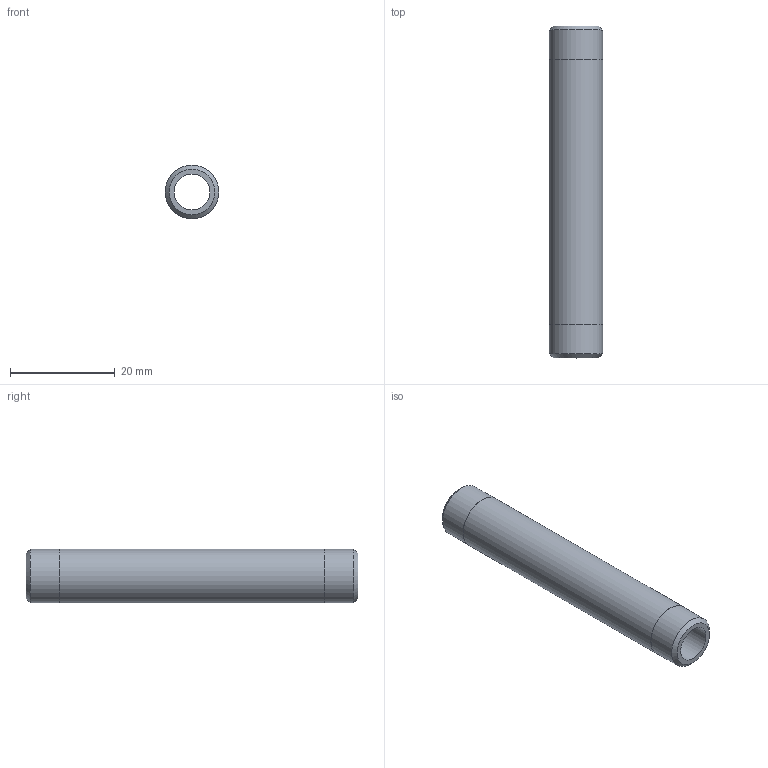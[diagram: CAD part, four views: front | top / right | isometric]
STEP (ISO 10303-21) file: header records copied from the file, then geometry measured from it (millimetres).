
FILE_DESCRIPTION(/* description */ (''),/* implementation_level */ '2;1');
FILE_NAME(/* name */ 'C:/Users/drich/Desktop/SSPN18-2-1_2 v1.step',/* time_stamp */ '2020-01-04T13:31:23-06:00',/* author */ (''),/* organization */ (''),/* preprocessor_version */ 'ST-DEVELOPER v18',/* originating_system */ 'Autodesk Translation Framework v8.12.0.6',/* authorisation */ '');
FILE_SCHEMA (('AUTOMOTIVE_DESIGN { 1 0 10303 214 3 1 1 }'));
Length unit declared in the file: inch
Products named in the file (1): SSPN18-2-1_2
Bounding box: 10.31 x 63.5 x 10.31 mm (x, y, z)
Volume: 2947.3 mm3; surface area: 3481.7 mm2
Topology: 1 solids, 1 shells, 10 faces, 24 edges, 18 vertices
Faces by surface type: cylinder 4, plane 4, cone 2
Full cylindrical faces by diameter (mm): 6.833 x1, 10.262 x2, 10.312 x1
Entity records: 353 total; most frequent: DIRECTION 64, CARTESIAN_POINT 53, ORIENTED_EDGE 48, AXIS2_PLACEMENT_3D 29, EDGE_CURVE 24, CIRCLE 18, VERTEX_POINT 18, EDGE_LOOP 14
